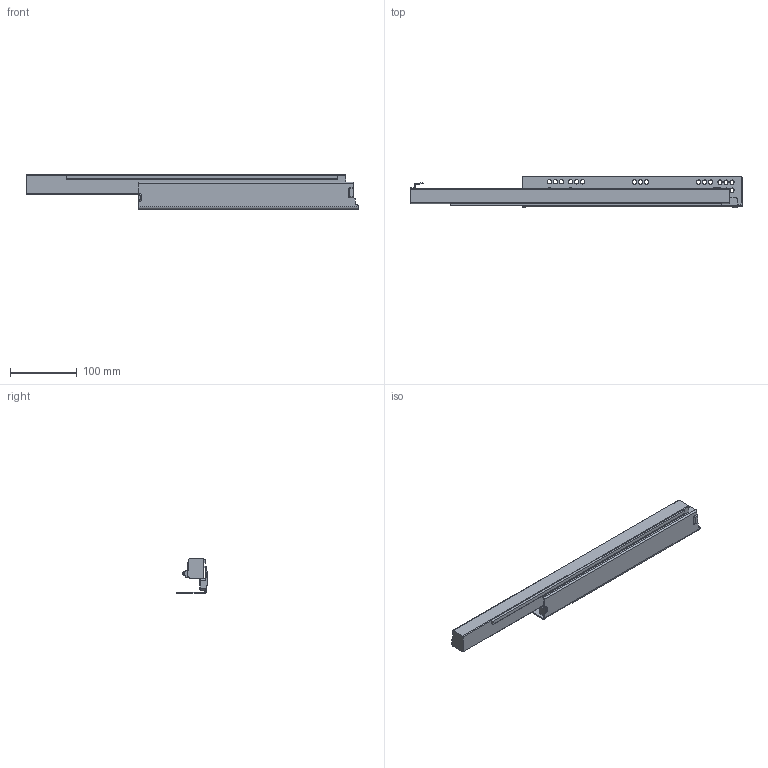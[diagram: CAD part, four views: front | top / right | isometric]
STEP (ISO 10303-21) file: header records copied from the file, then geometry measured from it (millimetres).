
FILE_DESCRIPTION (( 'STEP AP203' ), '1' );
FILE_NAME ('HT105004H-R(敕磁).STEP', '2021-07-31T01:26:23', ( 'Users' ), ( 'Microsoft' ), 'SwSTEP 2.0', 'SolidWorks 2018', '' );
FILE_SCHEMA (( 'CONFIG_CONTROL_DESIGN' ));
Length unit declared in the file: millimetre
Products named in the file (1): HT105004H-R(敕磁)
Bounding box: 498 x 47.5 x 51.73 mm (x, y, z)
Volume: 401296 mm3; surface area: 113667.9 mm2
Topology: 1 solids, 1 shells, 212 faces, 560 edges, 350 vertices
Faces by surface type: cylinder 94, plane 64, cone 40, torus 12, sphere 2
Entity records: 6719 total; most frequent: DIRECTION 1227, CARTESIAN_POINT 1136, ORIENTED_EDGE 1116, EDGE_CURVE 558, AXIS2_PLACEMENT_3D 461, VERTEX_POINT 350, VECTOR 305, LINE 305
